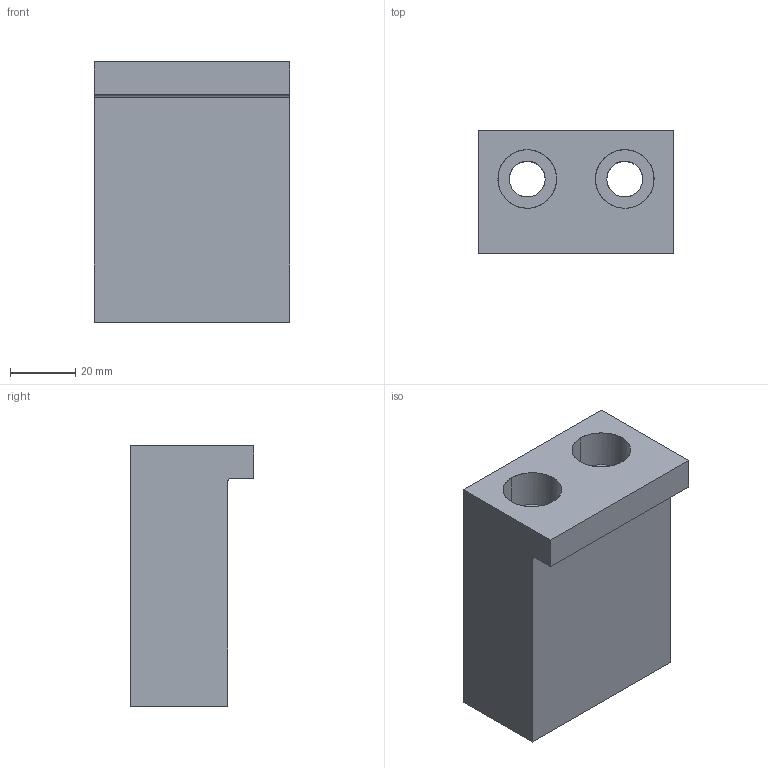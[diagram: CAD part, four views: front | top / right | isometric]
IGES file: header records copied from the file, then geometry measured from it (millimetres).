
Global section: file name: E:\UnigraphicsGraphicData\MISUMI_PRESS-PARTS\IGES\3d_bse60-70_01316_r00.igs; native system: NX V5.0; preprocessor: UGS NX IGES V5.0; author: MISUMI; date: 20110105.160141; units: millimetre
Bounding box: 60 x 38 x 80 mm (x, y, z)
Surface area: 24770.3 mm2 (no closed solid volume)
Topology: 0 solids, 0 shells, 19 faces, 142 edges, 142 vertices
Faces by surface type: bspline 19
